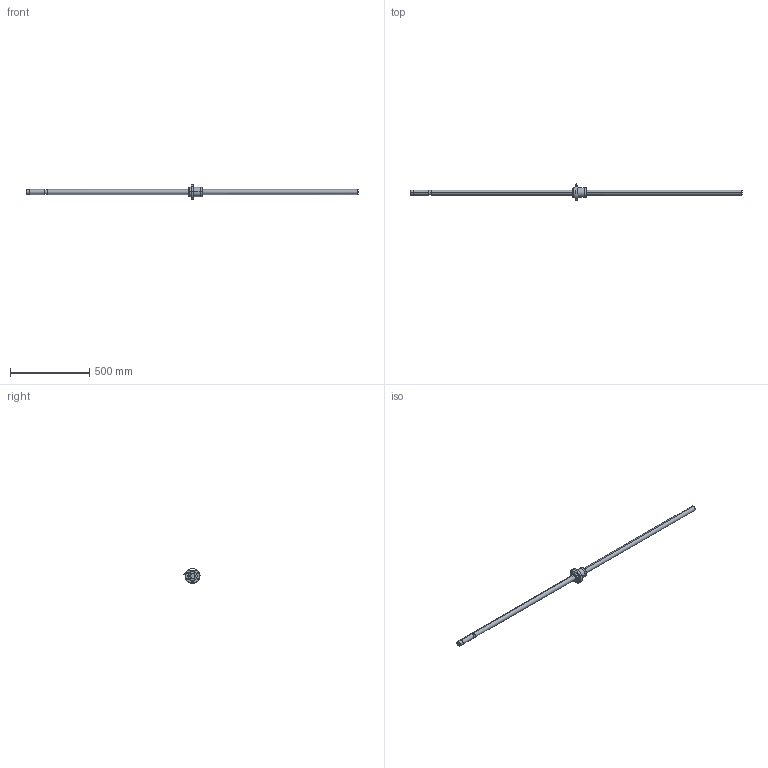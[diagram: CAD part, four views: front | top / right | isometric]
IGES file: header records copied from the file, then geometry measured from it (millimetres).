
Global section: file name: No Iges File Name specified; native system: AutoDesk Inventor R10; preprocessor: AutoDesk Inventor Iges Exporter R10; author: No Author specified; organization: No Organization specified; date: 20101224.134831; units: millimetre
Bounding box: 2100 x 101.33 x 94 mm (x, y, z)
Surface area: 253983.7 mm2 (no closed solid volume)
Topology: 0 solids, 0 shells, 72 faces, 474 edges, 470 vertices
Faces by surface type: bspline 72
